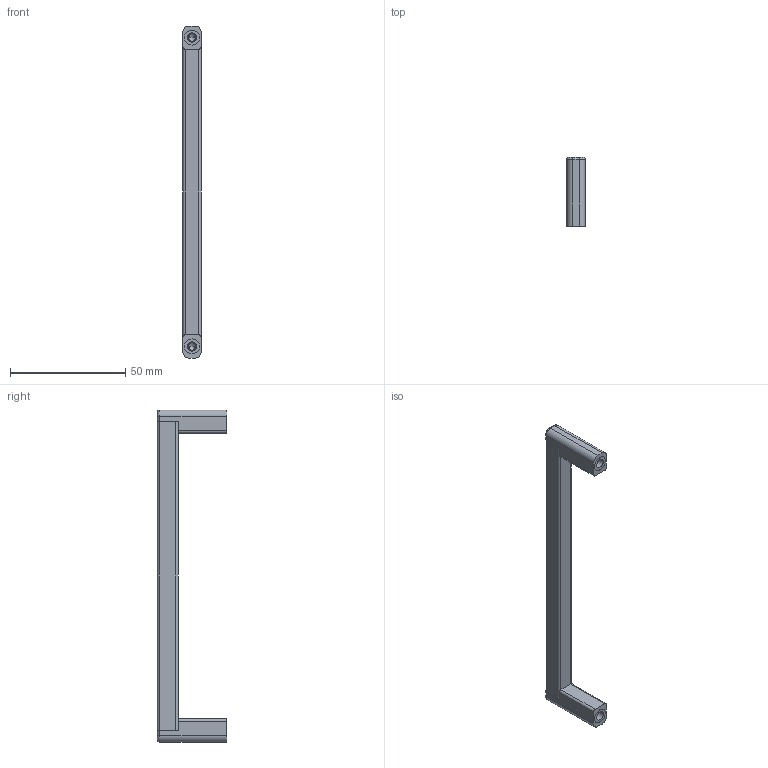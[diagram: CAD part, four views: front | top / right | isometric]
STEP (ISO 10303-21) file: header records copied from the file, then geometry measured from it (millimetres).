
FILE_DESCRIPTION (( 'STEP AP203' ), '1' );
FILE_NAME ('79350.W0134-1.step', '2018-04-28T14:53:31', ( '' ), ( '' ), 'SwSTEP 2.0', 'SolidWorks 2017', '' );
FILE_SCHEMA (( 'CONFIG_CONTROL_DESIGN' ));
Length unit declared in the file: millimetre
Products named in the file (3): 79350.W0134-1; Part3_79350.W0134-1; Part1
Assembly tree (3 placements, depth 2):
  79350.W0134-1
    Part3_79350.W0134-1
    Part1  x2
Bounding box: 8 x 30 x 144 mm (x, y, z)
Volume: 12249.6 mm3; surface area: 9745.2 mm2
Topology: 5 solids, 5 shells, 110 faces, 266 edges, 162 vertices
Faces by surface type: cylinder 46, plane 40, cone 12, torus 12
Entity records: 2190 total; most frequent: DIRECTION 355, CARTESIAN_POINT 318, ORIENTED_EDGE 302, EDGE_CURVE 151, AXIS2_PLACEMENT_3D 134, VERTEX_POINT 97, LINE 87, VECTOR 87
